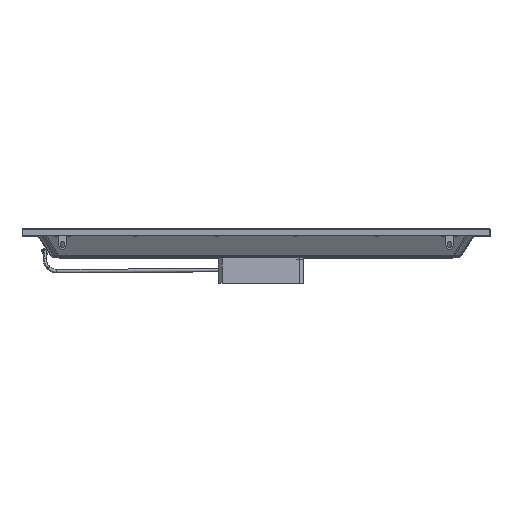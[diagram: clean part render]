
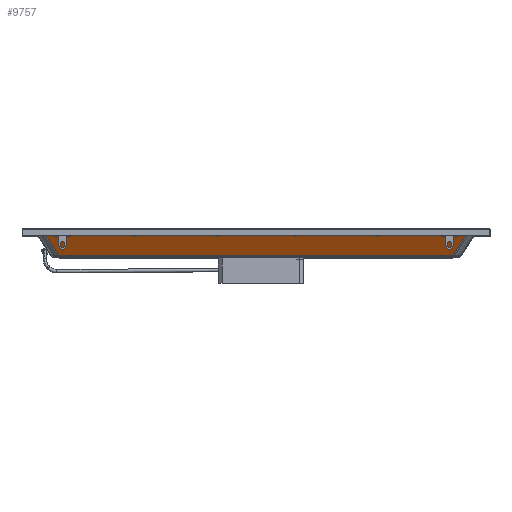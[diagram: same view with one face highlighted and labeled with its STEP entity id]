
A CAD part, top view. The second image highlights one B-rep face of the part: STEP entity #9757.
In plain terms, the highlighted planar face has unit normal (0, -0.545, 0.839).
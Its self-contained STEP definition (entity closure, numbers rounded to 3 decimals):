
#9757=ADVANCED_FACE('NONE',(#15895),#13750,.T.);
#13750=PLANE('',#75659);
#15895=FACE_OUTER_BOUND('',#20155,.T.);
#20155=EDGE_LOOP('',(#27521,#27522,#27523,#27524));
#27521=ORIENTED_EDGE('',*,*,#54958,.T.);
#27522=ORIENTED_EDGE('',*,*,#54930,.T.);
#27523=ORIENTED_EDGE('',*,*,#54959,.T.);
#27524=ORIENTED_EDGE('',*,*,#54960,.T.);
#47342=VERTEX_POINT('',#107735);
#47346=VERTEX_POINT('',#107790);
#47363=VERTEX_POINT('',#108325);
#47364=VERTEX_POINT('',#108327);
#54930=EDGE_CURVE('NONE',#47342,#47346,#65252,.T.);
#54958=EDGE_CURVE('NONE',#47363,#47342,#65262,.T.);
#54959=EDGE_CURVE('NONE',#47346,#47364,#65263,.T.);
#54960=EDGE_CURVE('NONE',#47364,#47363,#65264,.T.);
#65252=LINE('',#107791,#70618);
#65262=LINE('',#108324,#70628);
#65263=LINE('',#108326,#70629);
#65264=LINE('',#108328,#70630);
#70618=VECTOR('',#84244,1.);
#70628=VECTOR('',#84280,1.);
#70629=VECTOR('',#84281,1.);
#70630=VECTOR('',#84282,1.);
#75659=AXIS2_PLACEMENT_3D('',#108329,#84283,#84284);
#84244=DIRECTION('',(-1.,0.,0.));
#84280=DIRECTION('',(0.478,0.737,0.478));
#84281=DIRECTION('',(0.478,-0.737,-0.478));
#84282=DIRECTION('',(1.,0.,0.));
#84283=DIRECTION('',(0.,-0.545,0.839));
#84284=DIRECTION('',(0.,-0.839,-0.545));
#107735=CARTESIAN_POINT('',(270.236,15.554,280.3));
#107790=CARTESIAN_POINT('',(-270.236,15.554,280.3));
#107791=CARTESIAN_POINT('',(-280.85,15.554,280.3));
#108324=CARTESIAN_POINT('',(144.588,-177.928,154.652));
#108325=CARTESIAN_POINT('',(250.373,-15.034,260.437));
#108326=CARTESIAN_POINT('',(-273.088,19.945,283.152));
#108327=CARTESIAN_POINT('',(-250.373,-15.034,260.437));
#108328=CARTESIAN_POINT('',(-280.85,-15.034,260.437));
#108329=CARTESIAN_POINT('',(-280.85,16.4,280.85));
